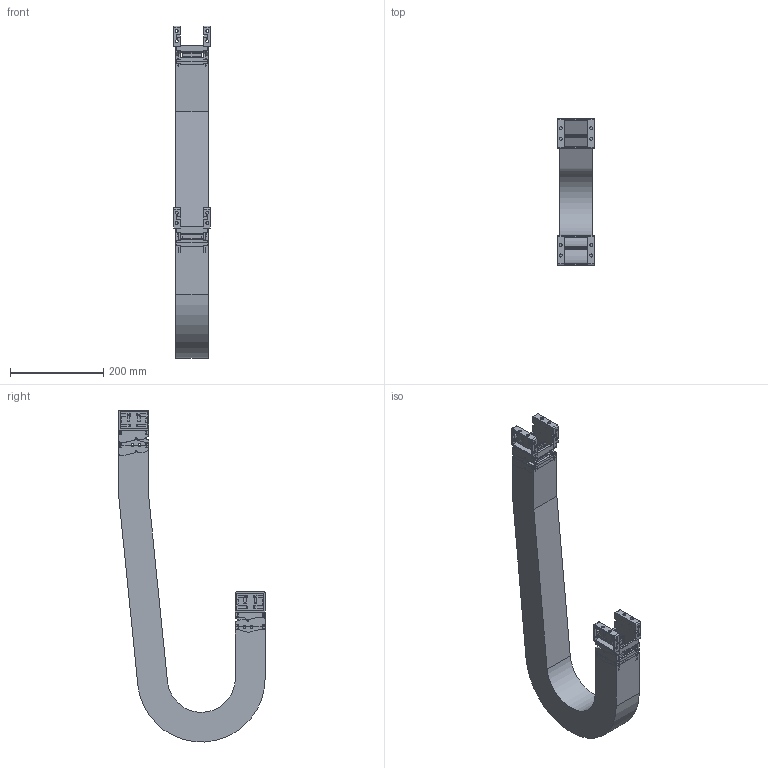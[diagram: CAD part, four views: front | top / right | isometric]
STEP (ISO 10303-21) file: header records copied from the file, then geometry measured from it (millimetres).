
FILE_DESCRIPTION((''),'2;1');
FILE_NAME('KST-50050-100_ASM','2017-12-07T',('KUNI004K'),(''),'PRO/ENGINEER BY PARAMETRIC TECHNOLOGY CORPORATION, 2015200','PRO/ENGINEER BY PARAMETRIC TECHNOLOGY CORPORATION, 2015200','');
FILE_SCHEMA(('AUTOMOTIVE_DESIGN { 1 0 10303 214 1 1 1 1 }'));
Products named in the file (13): 50FBR; 50FBL; 40050C; KST50FB_W050_ASM; KST50100R; KST50100L; 40050H; KST50050-100_1_ASM; KST50050_R100_BODY; 50MBR; 50MBL; KST50MB_W050_ASM; KST-50050-100_ASM
Assembly tree (19 placements, depth 3):
  KST-50050-100_ASM
    KST50FB_W050_ASM
      50FBR
      50FBL
      40050C  x2
    KST50050-100_1_ASM  x2
      KST50100R
      KST50100L
      40050C
      40050H
    KST50050_R100_BODY
    KST50MB_W050_ASM
      50MBR
      50MBL
      40050C  x2
Bounding box: 78 x 314 x 712.38 mm (x, y, z)
Volume: 2032621 mm3; surface area: 661836.8 mm2
Topology: 21 solids, 21 shells, 2648 faces, 7182 edges, 4604 vertices
Faces by surface type: plane 1350, cylinder 922, bspline 312, torus 64
Entity records: 66686 total; most frequent: CARTESIAN_POINT 13676, ORIENTED_EDGE 7112, DIRECTION 6434, PRESENTATION_STYLE_ASSIGNMENT 4856, STYLED_ITEM 4856, CURVE_STYLE 3556, EDGE_CURVE 3556, VERTEX_POINT 2296
